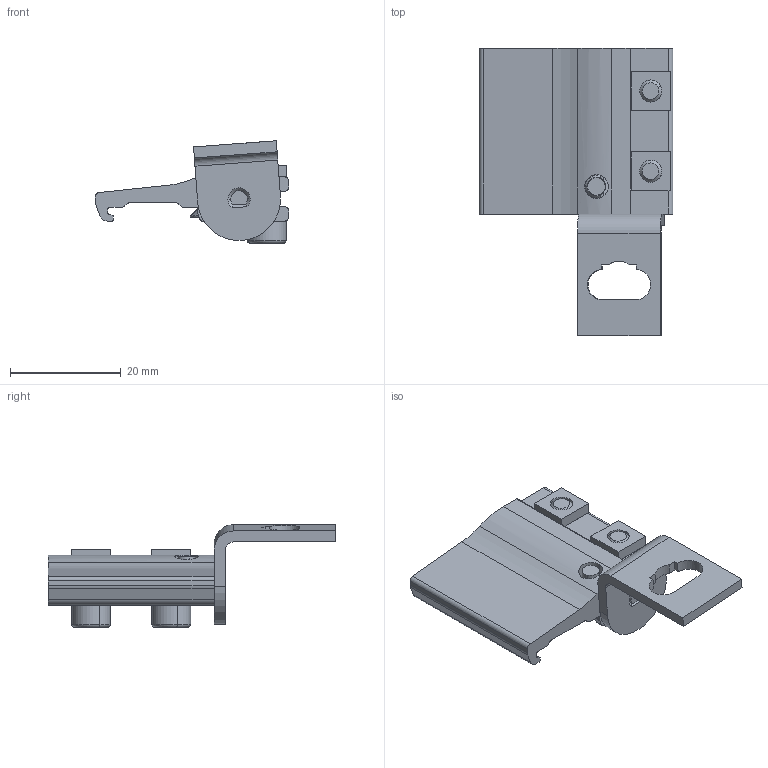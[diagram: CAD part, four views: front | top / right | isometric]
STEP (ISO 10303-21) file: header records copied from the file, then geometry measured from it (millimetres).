
FILE_DESCRIPTION (( 'STEP AP214' ), '1' );
FILE_NAME ('Rockwell Automation-445L-AF6149.STEP', '2015-05-13T06:54:03', ( 'Windows User' ), ( '' ), 'SwSTEP 2.0', 'SolidWorks 2015', '' );
FILE_SCHEMA (( 'AUTOMOTIVE_DESIGN' ));
Length unit declared in the file: millimetre
Products named in the file (1): Rockwell Automation-445L-AF6149
Bounding box: 35 x 52 x 18.53 mm (x, y, z)
Surface area: 5996.5 mm2 (no closed solid volume)
Topology: 0 solids, 12 shells, 165 faces, 465 edges, 309 vertices
Faces by surface type: plane 79, cylinder 71, cone 11, torus 4
Entity records: 7282 total; most frequent: CARTESIAN_POINT 1093, DIRECTION 937, ORIENTED_EDGE 859, EDGE_CURVE 465, AXIS2_PLACEMENT_3D 325, VERTEX_POINT 309, LINE 287, VECTOR 287
